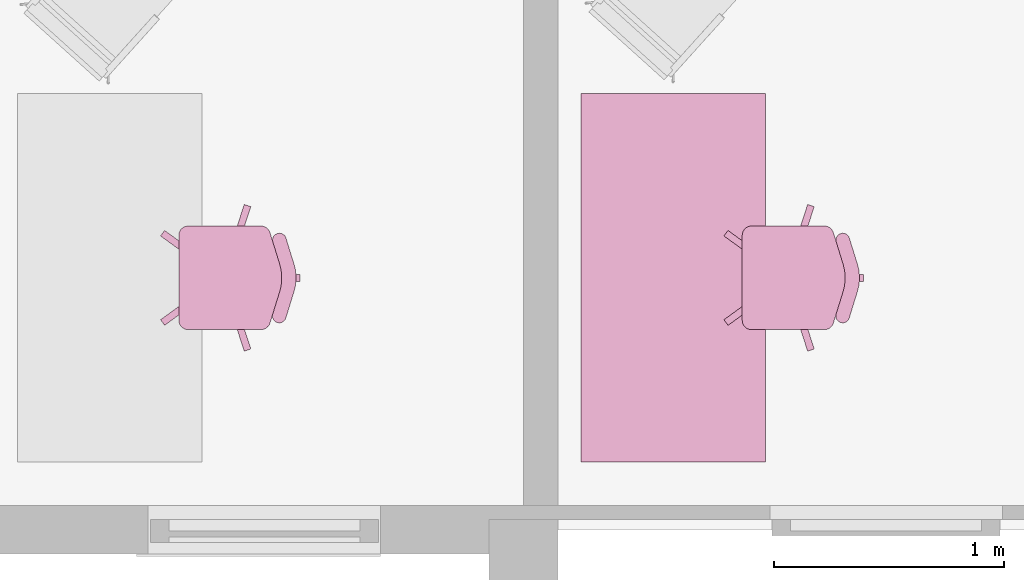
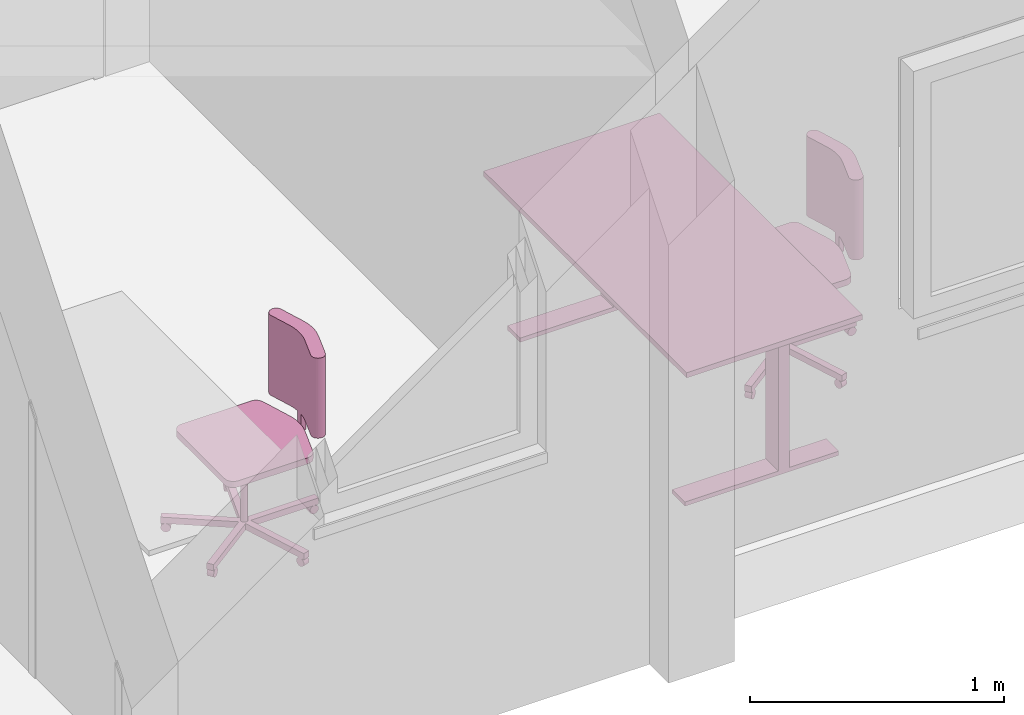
# One storey, part 45 of 58: 3 furnishings.
"""IFC2X3 building model written with IfcOpenShell, lengths in millimetres."""

import ifcopenshell
import ifcopenshell.guid

model = None  # the IFC model being written
_history = None  # IfcOwnerHistory: only IFC2X3 demands one
_inside = {}  # id of a spatial element -> (the spatial element, [elements in it])
_under = {}  # id of a project, library or spatial element -> (it, [spatial elements below it])
_declared = {}  # id of a project -> (the project, [libraries it declares])
_typed = {}  # id of a type object -> (the type object, [elements of that type])
_made_of = {}  # id of a material, layer set ... -> (it, [elements and type objects made of it])


def new_model(schema):
    """Start an empty IFC model of exactly this schema.

    Asked for "IFC4X3", IfcOpenShell would pick the latest addendum, in which some entities
    have other attributes; the version numbers below select the first issue.
    IFC2X3 requires an IfcOwnerHistory on every rooted entity: one is made here for all.
    """
    global model, _history
    if schema == "IFC4X3":
        model = ifcopenshell.file(schema_version=(4, 3, 0, 0))
    else:
        model = ifcopenshell.file(schema=schema)
    _inside.clear()
    _under.clear()
    _declared.clear()
    _typed.clear()
    _made_of.clear()
    _history = None
    if model.schema == "IFC2X3":
        org = make("IfcOrganization", Name="unknown")
        user = make(
            "IfcPersonAndOrganization",
            ThePerson=make("IfcPerson", FamilyName="unknown"),
            TheOrganization=org,
        )
        app = make(
            "IfcApplication",
            ApplicationDeveloper=org,
            Version="unknown",
            ApplicationFullName="unknown",
            ApplicationIdentifier="unknown",
        )
        _history = make(
            "IfcOwnerHistory",
            OwningUser=user,
            OwningApplication=app,
            ChangeAction="ADDED",
            CreationDate=0,
        )
    return model


def make(cls, **values):
    """One entity of the class cls with the attributes given. An attribute that is None is left unset."""
    return model.create_entity(
        cls, **{name: value for name, value in values.items() if value is not None}
    )


def entity(cls, *values):
    """Any entity or typed value of the class cls, its attributes in the order of the schema. None: left unset."""
    e = model.create_entity(cls)
    for i, value in enumerate(values):
        if value is not None:
            e[i] = value
    return e


def rooted(cls, **values):
    """An entity with a GlobalId (a new one), such as an element, a storey or a relation."""
    return make(cls, GlobalId=ifcopenshell.guid.new(), OwnerHistory=_history, **values)


def si_unit(unit_type, name, prefix=None):
    """IfcSIUnit, for example si_unit("LENGTHUNIT", "METRE", prefix="MILLI")."""
    return make("IfcSIUnit", UnitType=unit_type, Prefix=prefix, Name=name)


def converted_unit(unit_type, name, factor, base, dimensions=None, offset=None):
    """IfcConversionBasedUnit, such as the inch: factor (a typed value) times the base unit."""
    return make(
        "IfcConversionBasedUnit"
        if offset is None
        else "IfcConversionBasedUnitWithOffset",
        ConversionOffset=offset,
        Dimensions=None
        if dimensions is None
        else entity("IfcDimensionalExponents", *dimensions),
        UnitType=unit_type,
        Name=name,
        ConversionFactor=make(
            "IfcMeasureWithUnit", ValueComponent=factor, UnitComponent=base
        ),
    )


def derived_unit(unit_type, elements):
    """IfcDerivedUnit: a product of units, each with its exponent."""
    return make(
        "IfcDerivedUnit",
        Elements=[
            make("IfcDerivedUnitElement", Unit=unit, Exponent=power)
            for unit, power in elements
        ],
        UnitType=unit_type,
    )


def assignment(units):
    """IfcUnitAssignment: the units of a project."""
    return None if units is None else make("IfcUnitAssignment", Units=units)


def point(xyz):
    """IfcCartesianPoint."""
    return None if xyz is None else make("IfcCartesianPoint", Coordinates=xyz)


def direction(xyz):
    """IfcDirection."""
    return None if xyz is None else make("IfcDirection", DirectionRatios=xyz)


def frame(location, z_axis=None, x_axis=None):
    """IfcAxis2Placement3D, a coordinate frame: its origin and axes. An axis left out is left unset."""
    return make(
        "IfcAxis2Placement3D",
        Location=point(location),
        Axis=direction(z_axis),
        RefDirection=direction(x_axis),
    )


def frame_2d(location, x_axis=None):
    """IfcAxis2Placement2D, a coordinate frame in the plane: its origin and x axis."""
    return make(
        "IfcAxis2Placement2D", Location=point(location), RefDirection=direction(x_axis)
    )


def origin():
    """The frame at (0, 0, 0) with its axes left unset."""
    return frame((0.0, 0.0, 0.0))


def origin_2d_with_axis():
    """The frame at (0, 0) in the plane with the x axis (1, 0) written out."""
    return frame_2d((0.0, 0.0), x_axis=(1.0, 0.0))


def place(relative_to, where):
    """IfcLocalPlacement: puts the frame where relative to a parent placement (None: the world)."""
    return make(
        "IfcLocalPlacement", PlacementRelTo=relative_to, RelativePlacement=where
    )


def context(
    kind, dimensions, precision=None, world=None, true_north=None, identifier=None
):
    """IfcGeometricRepresentationContext, for example the 3D "Model" context."""
    return make(
        "IfcGeometricRepresentationContext",
        ContextIdentifier=identifier,
        ContextType=kind,
        CoordinateSpaceDimension=dimensions,
        Precision=precision,
        WorldCoordinateSystem=world,
        TrueNorth=true_north,
    )


def subcontext(parent, identifier, kind, view, scale=None):
    """IfcGeometricRepresentationSubContext, for example "Body" below "Model"."""
    return make(
        "IfcGeometricRepresentationSubContext",
        ContextIdentifier=identifier,
        ContextType=kind,
        ParentContext=parent,
        TargetScale=scale,
        TargetView=view,
    )


def project(units=None, contexts=None):
    """IfcProject with its units and contexts."""
    return rooted(
        "IfcProject",
        Name="project",
        RepresentationContexts=contexts,
        UnitsInContext=assignment(units),
    )


def spatial(cls, under=None, at=None, **own):
    """A site, building, storey or space (cls), placed at a placement, below another one or the project."""
    s = rooted(cls, ObjectPlacement=at, **own)
    if under is not None:
        _under.setdefault(under.id(), (under, []))[1].append(s)
    return s


def polyline(points):
    """IfcPolyline through the points."""
    return make("IfcPolyline", Points=[point(p) for p in points])


def circle_curve(where, radius):
    """IfcCircle in the frame where."""
    return make("IfcCircle", Position=where, Radius=radius)


def parameter(value):
    """IfcParameterValue: where a trimmed curve begins or ends, as a parameter of its basis curve."""
    return model.create_entity("IfcParameterValue", value)


def trimmed(basis, trim1, trim2, sense, master):
    """IfcTrimmedCurve: the piece of a basis curve between two trims."""
    return make(
        "IfcTrimmedCurve",
        BasisCurve=basis,
        Trim1=trim1,
        Trim2=trim2,
        SenseAgreement=sense,
        MasterRepresentation=master,
    )


def segment(curve, same_sense, transition):
    """IfcCompositeCurveSegment."""
    return make(
        "IfcCompositeCurveSegment",
        Transition=transition,
        SameSense=same_sense,
        ParentCurve=curve,
    )


def composite_curve(segments, self_intersect=None):
    """IfcCompositeCurve: segments joined end to end."""
    return make("IfcCompositeCurve", Segments=segments, SelfIntersect=self_intersect)


def profile(cls, at=None, kind="AREA", **sizes):
    """A parametric profile (cls). Its sizes go by their IFC names, for example OverallWidth=200.0."""
    return make(cls, ProfileType=kind, Position=at, **sizes)


def rectangle(**sizes):
    """IfcRectangleProfileDef."""
    return profile("IfcRectangleProfileDef", **sizes)


def circle(**sizes):
    """IfcCircleProfileDef."""
    return profile("IfcCircleProfileDef", **sizes)


def outline(outer, holes=None, kind="AREA"):
    """IfcArbitraryClosedProfileDef: a profile drawn as a closed curve; with holes, ...WithVoids."""
    if holes is None:
        return make("IfcArbitraryClosedProfileDef", ProfileType=kind, OuterCurve=outer)
    return make(
        "IfcArbitraryProfileDefWithVoids",
        ProfileType=kind,
        OuterCurve=outer,
        InnerCurves=holes,
    )


def extrude(swept, where, along, depth):
    """IfcExtrudedAreaSolid: the profile swept, set in the frame where, extruded along a direction by depth."""
    return make(
        "IfcExtrudedAreaSolid",
        SweptArea=swept,
        Position=where,
        ExtrudedDirection=direction(along),
        Depth=depth,
    )


def shape(context_of_items, identifier, shape_type, items):
    """IfcShapeRepresentation: the items that make up one representation, for example the "Body"."""
    return make(
        "IfcShapeRepresentation",
        ContextOfItems=context_of_items,
        RepresentationIdentifier=identifier,
        RepresentationType=shape_type,
        Items=items,
    )


def source(mapping_origin, context_of_items, identifier, shape_type, items):
    """IfcRepresentationMap: a shape defined once, which mapped items show again and again."""
    return make(
        "IfcRepresentationMap",
        MappingOrigin=mapping_origin,
        MappedRepresentation=shape(context_of_items, identifier, shape_type, items),
    )


def transform(
    local_origin,
    x_axis=None,
    y_axis=None,
    z_axis=None,
    scale=None,
    scale2=None,
    scale3=None,
    uniform=True,
):
    """IfcCartesianTransformationOperator3D, or its non-uniform kind. x_axis, y_axis, z_axis: its Axis1, 2, 3."""
    if uniform:
        return make(
            "IfcCartesianTransformationOperator3D",
            Axis1=direction(x_axis),
            Axis2=direction(y_axis),
            LocalOrigin=point(local_origin),
            Scale=scale,
            Axis3=direction(z_axis),
        )
    return make(
        "IfcCartesianTransformationOperator3DnonUniform",
        Axis1=direction(x_axis),
        Axis2=direction(y_axis),
        LocalOrigin=point(local_origin),
        Scale=scale,
        Axis3=direction(z_axis),
        Scale2=scale2,
        Scale3=scale3,
    )


def mapped(mapping_source, mapping_target):
    """IfcMappedItem: shows the shape of a source again, moved by a transform."""
    return make(
        "IfcMappedItem", MappingSource=mapping_source, MappingTarget=mapping_target
    )


def material(Name=None, Category=None):
    """IfcMaterial."""
    return make("IfcMaterial", Name=Name, Category=Category)


def material_list(materials):
    """IfcMaterialList."""
    return make("IfcMaterialList", Materials=materials)


def made_of(thing, what):
    """Note that an element or type object is made of a material, layer set ...; save() writes the relation."""
    if what is not None:
        _made_of.setdefault(what.id(), (what, []))[1].append(thing)
    return thing


def type_object(cls, material=None, **own):
    """A type object (cls), such as IfcWallType, which elements share."""
    return made_of(rooted(cls, **own), material)


def type_shapes(of_type, sources):
    """Give a type object the sources (RepresentationMaps) that its elements show as mapped items."""
    of_type.RepresentationMaps = sources


def element(
    cls,
    number,
    at=None,
    inside=None,
    cuts=None,
    type_object=None,
    material=None,
    context=None,
    identifier="Body",
    shape_type=None,
    held_by="IfcProductDefinitionShape",
    body=None,
    shapes=None,
    **own,
):
    """One element of the class cls, such as IfcWall. Its Tag is "e" and its number.

    at: its placement. inside: the storey or other place that contains it. cuts: it is an
    opening in that element (IfcRelVoidsElement). A single representation is given by context,
    identifier, shape_type and body (its items); several are given by shapes. held_by: the class
    of the entity that holds the representations. save() writes the other relations.
    """
    e = rooted(cls, Tag="e%d" % number, ObjectPlacement=at, **own)
    if body is not None:
        shapes = [shape(context, identifier, shape_type, body)]
    if shapes is not None:
        e.Representation = make(held_by, Representations=shapes)
    if inside is not None:
        _inside.setdefault(inside.id(), (inside, []))[1].append(e)
    if cuts is not None:
        rooted(
            "IfcRelVoidsElement", RelatingBuildingElement=cuts, RelatedOpeningElement=e
        )
    if type_object is not None:
        _typed.setdefault(type_object.id(), (type_object, []))[1].append(e)
    return made_of(e, material)


def aggregate(whole, parts):
    """IfcRelAggregates: a whole, such as a stair, and the parts it consists of."""
    return rooted("IfcRelAggregates", RelatingObject=whole, RelatedObjects=parts)


def save(model, path):
    """Write the relations noted so far, then the file.

    IfcRelAggregates (storeys below a building ...), IfcRelContainedInSpatialStructure (elements
    in a storey), IfcRelDefinesByType, IfcRelAssociatesMaterial and IfcRelDeclares: one each for
    every whole, place, type object, material and project.
    """
    for whole, parts in _under.values():
        aggregate(whole, parts)
    for where, things in _inside.values():
        rooted(
            "IfcRelContainedInSpatialStructure",
            RelatedElements=things,
            RelatingStructure=where,
        )
    for kind, things in _typed.values():
        rooted("IfcRelDefinesByType", RelatedObjects=things, RelatingType=kind)
    for what, things in _made_of.values():
        rooted("IfcRelAssociatesMaterial", RelatedObjects=things, RelatingMaterial=what)
    for by, libraries in _declared.values():
        rooted("IfcRelDeclares", RelatingContext=by, RelatedDefinitions=libraries)
    model.write(path)


model = new_model("IFC2X3")

# Units and contexts
model_context = context("Model", 3, precision=0.01, world=origin(), true_north=direction((0.7716245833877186, 0.6360782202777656)))
body_context = subcontext(model_context, "Body", "Model", "MODEL_VIEW")
ifc_project = project(units=[si_unit("LENGTHUNIT", "METRE", prefix="MILLI"), si_unit("AREAUNIT", "SQUARE_METRE"), converted_unit("PLANEANGLEUNIT", "DEGREE", entity("IfcPlaneAngleMeasure", 0.017453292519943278), si_unit("PLANEANGLEUNIT", "RADIAN"), dimensions=[0, 0, 0, 0, 0, 0, 0]), derived_unit("THERMALTRANSMITTANCEUNIT", [(si_unit("MASSUNIT", "GRAM", prefix="KILO"), 1), (si_unit("THERMODYNAMICTEMPERATUREUNIT", "KELVIN"), -1), (si_unit("TIMEUNIT", "SECOND"), -3)])], contexts=[model_context])

# Site, building, storey
site_placement = place(None, origin())
site = spatial("IfcSite", under=ifc_project, at=site_placement, Name="Default", CompositionType="ELEMENT")
building_placement = place(site_placement, origin())
building = spatial("IfcBuilding", under=site, at=building_placement, CompositionType="ELEMENT")
storey_placement = place(building_placement, frame((0.0, 0.0, 31140.0)))
storey = spatial("IfcBuildingStorey", under=building, at=storey_placement, Name="PLAN U1", CompositionType="ELEMENT", Elevation=31140.000000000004)

# Furnishings
ifc_material_1 = material(Name="Metall")
ifc_material_2 = material(Name="Plate")
ifc_material_list_1 = material_list([ifc_material_1, ifc_material_2])
furniture_type_1 = type_object("IfcFurnitureType", Name="Arbeidsbord_elektrisk_hevsenk:Arbbord 800x1600", AssemblyPlace="NOTDEFINED", material=ifc_material_list_1)
shared_shape_1 = source(origin(), body_context, "Body", "SweptSolid", [
    extrude(rectangle(XDim=50.0, YDim=99.99999999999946, at=origin_2d_with_axis()), frame((650.0, 300.0, 20.0), z_axis=(0.0, 0.0, 1.0), x_axis=(0.0, -1.0, 0.0)), (0.0, 0.0, 1.0), 674.9999999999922),
    extrude(rectangle(XDim=50.0, YDim=99.99999999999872, at=frame_2d((0.0, 3.552713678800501e-14), x_axis=(1.0, 0.0))), frame((-650.0, 300.0, 20.0), z_axis=(0.0, 0.0, 1.0), x_axis=(0.0, -1.0, 0.0)), (0.0, 0.0, 1.0), 674.9999999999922),
    extrude(rectangle(XDim=699.9999999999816, YDim=99.99999999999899, at=frame_2d((0.0, 3.552713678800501e-14), x_axis=(1.0, 0.0))), frame((650.0, 400.0, 0.0), z_axis=(0.0, 0.0, 1.0), x_axis=(0.0, 1.0, 0.0)), (0.0, 0.0, 1.0), 19.999999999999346),
    extrude(rectangle(XDim=699.9999999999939, YDim=100.00000000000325, at=frame_2d((-2.842170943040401e-14, 0.0), x_axis=(1.0, 0.0))), frame((-650.0, 400.0, 0.0), z_axis=(0.0, 0.0, 1.0), x_axis=(0.0, 1.0, 0.0)), (0.0, 0.0, 1.0), 19.999999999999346),
    extrude(rectangle(XDim=799.9999999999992, YDim=1599.9999999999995, at=origin_2d_with_axis()), frame((0.0, 400.0, 695.0), z_axis=(0.0, 0.0, 1.0), x_axis=(0.0, 1.0, 0.0)), (0.0, 0.0, 1.0), 25.00000000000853),
    extrude(rectangle(XDim=799.9999999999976, YDim=1599.9999999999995, at=origin_2d_with_axis()), frame((0.0, 400.0, 695.0), z_axis=(0.0, 0.0, 1.0), x_axis=(0.0, 1.0, 0.0)), (0.0, 0.0, 1.0), 25.00000000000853),
])
type_shapes(furniture_type_1, [shared_shape_1])
furnishing_1_placement = place(storey_placement, frame((266967.9244464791, 54515.25555007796, 0.0), z_axis=(0.0, 0.0, 1.0), x_axis=(0.0, 1.0, 0.0)))
element("IfcFurnishingElement", 1, at=furnishing_1_placement, inside=storey, type_object=furniture_type_1, material=ifc_material_list_1, Name="Arbeidsbord_elektrisk_hevsenk:Arbbord 800x1600", ObjectType="Arbeidsbord_elektrisk_hevsenk:Arbbord 800x1600", context=body_context, shape_type="MappedRepresentation", body=[
    mapped(shared_shape_1, transform((0.0, 0.0, 0.0), scale=1.0)),
])
ifc_material_3 = material(Name="Stoff")
ifc_material_list_2 = material_list([ifc_material_1, ifc_material_3])
furniture_type_2 = type_object("IfcFurnitureType", Name="Kontorstol_uten_arml:Kontorstol", AssemblyPlace="NOTDEFINED", material=ifc_material_list_2)
shared_shape_2 = source(origin(), body_context, "Body", "SweptSolid", [
    extrude(rectangle(XDim=29.993876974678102, YDim=23.3196738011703, at=frame_2d((2.6645352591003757e-15, 3.375077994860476e-14), x_axis=(1.0, 0.0))), frame((-0.08594931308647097, 458.13719107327, 420.0), z_axis=(0.0, 0.0, 1.0), x_axis=(-1.0, 0.0, 0.0)), (0.0, 0.0, 1.0), 79.99999999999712),
    extrude(outline(composite_curve([segment(polyline([(-166.8872231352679, -63.24327611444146), (-41.887223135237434, -63.243276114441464)]), True, "CONTINUOUS"), segment(trimmed(circle_curve(frame_2d((-41.88722313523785, 136.75672388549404), x_axis=(-0.9553448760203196, -0.2954930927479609)), 199.99999999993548), [parameter(72.81289228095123)], [parameter(107.18710730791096)], True, "PARAMETER"), True, "CONTINUOUS"), segment(polyline([(71.03190050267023, -28.316809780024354), (172.84154377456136, 41.3264300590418)]), True, "CONTINUOUS"), segment(trimmed(circle_curve(frame_2d((152.39944907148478, 63.28367861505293), x_axis=(-0.9553448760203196, -0.2954930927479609)), 30.0), [parameter(115.7662804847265)], [parameter(278.6079341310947)], True, "PARAMETER"), True, "CONTINUOUS"), segment(polyline([(139.34485343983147, 90.29437155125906), (52.681247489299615, 31.01183111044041)]), True, "CONTINUOUS"), segment(trimmed(circle_curve(frame_2d((-60.2378761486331, 196.0853647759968), x_axis=(-0.9553448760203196, -0.2954930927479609)), 199.99999999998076), [parameter(72.81289242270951)], [parameter(107.18710730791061)], True, "PARAMETER"), False, "CONTINUOUS"), segment(polyline([(-60.23787565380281, -3.9146352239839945), (-166.88722328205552, -3.9146354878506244)]), True, "CONTINUOUS"), segment(trimmed(circle_curve(frame_2d((-162.41194664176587, -33.57895579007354), x_axis=(-0.9553448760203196, -0.2954930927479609)), 30.0), [parameter(261.3920633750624)], [parameter(64.23372147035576)], True, "PARAMETER"), True, "CONTINUOUS")], self_intersect=False)), frame((0.3939250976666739, 452.3086458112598, 500.0), z_axis=(0.0, 0.0, 1.0), x_axis=(-0.955344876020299, 0.29549309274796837, 0.0)), (0.0, 0.0, 1.0), 384.9999999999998),
    extrude(outline(composite_curve([segment(trimmed(circle_curve(frame_2d((185.0, -206.35232221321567), x_axis=(1.0, 0.0)), 39.99999999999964), [parameter(270.0000000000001)], [parameter(1.0177774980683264e-13)], True, "PARAMETER"), True, "CONTINUOUS"), segment(polyline([(225.0, -206.35232221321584), (225.0, 114.73987977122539)]), True, "CONTINUOUS"), segment(trimmed(circle_curve(frame_2d((184.37947209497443, 110.49005175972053), x_axis=(1.0, 0.0)), 40.84223691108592), [parameter(5.972708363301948)], [parameter(76.63511870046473)], True, "PARAMETER"), True, "CONTINUOUS"), segment(polyline([(193.82022090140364, 150.22618868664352), (59.098618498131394, 191.8962741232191)]), True, "CONTINUOUS"), segment(trimmed(circle_curve(frame_2d((4.212244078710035e-07, 0.8272987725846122), x_axis=(1.0, 0.0)), 200.00000000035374), [parameter(72.81289242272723)], [parameter(107.18710757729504)], True, "PARAMETER"), True, "CONTINUOUS"), segment(polyline([(-59.09861765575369, 191.8962741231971), (-193.82022104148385, 150.22618838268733)]), True, "CONTINUOUS"), segment(trimmed(circle_curve(frame_2d((-184.42156675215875, 110.53750606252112), x_axis=(1.0, 0.0)), 40.78634828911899), [parameter(103.32275860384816)], [parameter(185.78772268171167)], True, "PARAMETER"), True, "CONTINUOUS"), segment(polyline([(-225.0, 106.42448376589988), (-225.0, -206.35232221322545)]), True, "CONTINUOUS"), segment(trimmed(circle_curve(frame_2d((-185.0, -206.35232221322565), x_axis=(1.0, 0.0)), 39.99999999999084), [parameter(179.99999999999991)], [parameter(270.0000000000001)], True, "PARAMETER"), True, "CONTINUOUS"), segment(polyline([(-185.0, -246.3523222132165), (185.0, -246.3523222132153)]), True, "CONTINUOUS")], self_intersect=False)), frame((1.1704753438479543e-07, 246.3523222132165, 420.0)), (0.0, 0.0, 1.0), 30.000000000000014),
    extrude(circle(Radius=19.999999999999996, at=frame_2d((0.0, -8.882894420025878e-14), x_axis=(1.0, 0.0))), frame((-194.12496236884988, -45.75823201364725, 20.0), z_axis=(0.8091973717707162, -0.5875369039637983, 0.0), x_axis=(-0.5875369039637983, -0.8091973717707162, 0.0)), (0.0, 0.0, 1.0), 29.630650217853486),
    extrude(circle(Radius=19.999999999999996, at=frame_2d((0.0, -3.383959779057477e-14), x_axis=(1.0, 0.0))), frame((-15.095151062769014, 506.38378426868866, 20.0), z_axis=(0.9999999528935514, 0.0003069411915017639, 0.0), x_axis=(-0.0003069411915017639, 0.9999999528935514, 0.0)), (0.0, 0.0, 1.0), 29.999999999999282),
    extrude(circle(Radius=19.999999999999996, at=frame_2d((0.0, -3.383959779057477e-14), x_axis=(1.0, 0.0))), frame((-299.4877855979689, 277.8259021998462, 20.0), z_axis=(0.3087250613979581, 0.9511513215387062, 0.0), x_axis=(-0.9511513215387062, 0.3087250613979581, 0.0)), (0.0, 0.0, 1.0), 29.99999999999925),
    extrude(circle(Radius=19.999999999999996, at=frame_2d((0.0, -8.882894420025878e-14), x_axis=(1.0, 0.0))), frame((170.15785091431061, -63.17142782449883, 20.0), z_axis=(0.8088365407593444, 0.5880335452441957, 0.0), x_axis=(0.5880335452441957, -0.8088365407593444, 0.0)), (0.0, 0.0, 1.0), 29.999999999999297),
    extrude(circle(Radius=19.999999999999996, at=frame_2d((0.0, -8.882894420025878e-14), x_axis=(1.0, 0.0))), frame((299.4377361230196, 278.00973712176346, 20.0), z_axis=(-0.30930889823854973, 0.9509616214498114, 0.0), x_axis=(0.9509616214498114, 0.30930889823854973, 0.0)), (0.0, 0.0, 1.0), 29.999999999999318),
    extrude(circle(Radius=11.0, at=frame_2d((-1.5007502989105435e-14, -7.276412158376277e-14), x_axis=(1.0, 0.0))), frame((0.0, 196.38840298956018, 248.23543396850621), z_axis=(0.0, 0.0, 1.0), x_axis=(0.8088365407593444, 0.5880335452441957, 0.0)), (0.0, 0.0, 1.0), 171.76456603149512),
    extrude(circle(Radius=14.999999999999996, at=frame_2d((1.2051828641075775e-14, -8.761819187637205e-15), x_axis=(1.0, 0.0))), frame((0.0, 196.38840298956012, 70.0), z_axis=(0.0, 0.0, 1.0), x_axis=(0.8088365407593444, 0.5880335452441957, 0.0)), (0.0, 0.0, 1.0), 178.2354339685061),
    extrude(outline(polyline([(20.45402245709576, -15.007609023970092), (330.00247232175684, -15.007609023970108), (330.00247232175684, 14.992390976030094), (20.648201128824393, 14.992390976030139), (116.24392820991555, 309.2057864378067), (87.71223272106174, 318.4762962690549), (-7.88349436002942, 24.262900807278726), (-258.1563570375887, 206.09677914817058), (-275.7899146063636, 181.82626931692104), (-25.517051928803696, -0.007609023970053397), (-275.7899146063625, -181.84148736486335), (-258.15635703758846, -206.11199719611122), (-7.726400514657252, -24.163983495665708), (87.88786897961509, -318.43444663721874), (116.06829195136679, -309.2780721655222), (20.45402245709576, -15.007609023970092)])), frame((0.004700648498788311, 196.3948770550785, 40.0), z_axis=(0.0, 0.0, 1.0), x_axis=(0.5880335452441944, -0.8088365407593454, 0.0)), (0.0, 0.0, 1.0), 29.999999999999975),
])
type_shapes(furniture_type_2, [shared_shape_2])
furnishing_2_placement = place(storey_placement, frame((266867.9244464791, 54515.25555007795, 0.0), z_axis=(0.0, 0.0, 1.0), x_axis=(0.0, -1.0, 0.0)))
element("IfcFurnishingElement", 2, at=furnishing_2_placement, inside=storey, type_object=furniture_type_2, material=ifc_material_list_2, Name="Kontorstol_uten_arml:Kontorstol", ObjectType="Kontorstol_uten_arml:Kontorstol", context=body_context, shape_type="MappedRepresentation", body=[
    mapped(shared_shape_2, transform((0.0, 0.0, 0.0), scale=1.0)),
])

# Space
space_placement = place(storey_placement, origin())
space = spatial("IfcSpace", under=storey, at=space_placement, Name="Kontor", CompositionType="ELEMENT", InteriorOrExteriorSpace="INTERNAL")

# Furnishing
furnishing_3_placement = place(space_placement, frame((264420.705289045, 54515.25555007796, 0.0), z_axis=(0.0, 0.0, 1.0), x_axis=(0.0, -1.0, 0.0)))
element("IfcFurnishingElement", 3, at=furnishing_3_placement, inside=space, type_object=furniture_type_2, material=ifc_material_list_2, Name="Kontorstol_uten_arml:Kontorstol", ObjectType="Kontorstol_uten_arml:Kontorstol", context=body_context, shape_type="MappedRepresentation", body=[
    mapped(shared_shape_2, transform((0.0, 0.0, 0.0), scale=1.0)),
])

save(model, "model.ifc")
